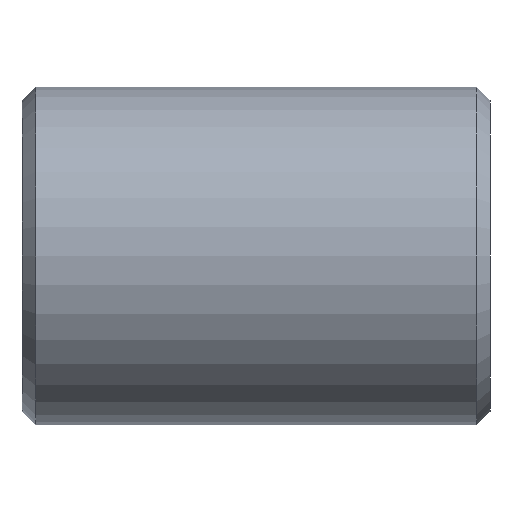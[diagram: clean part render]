
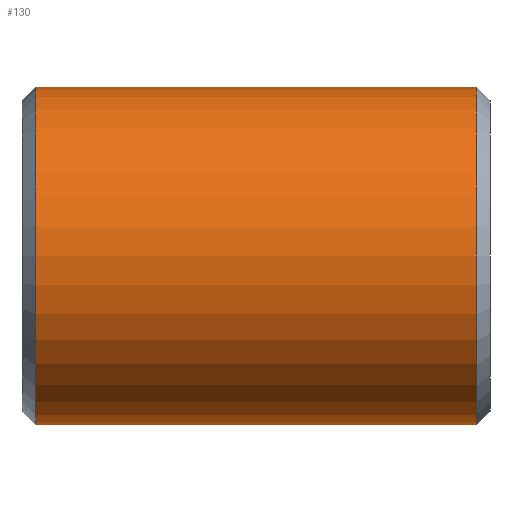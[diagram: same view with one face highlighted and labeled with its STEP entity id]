
A CAD part, front view. The second image highlights one B-rep face of the part: STEP entity #130.
In plain terms, the highlighted cylindrical face has radius 37.5 mm (diameter 75 mm), a partial arc.
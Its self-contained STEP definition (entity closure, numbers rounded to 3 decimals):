
#13 = CARTESIAN_POINT ( 'NONE',  ( 3., 0., -37.5 ) ) ;
#32 = VERTEX_POINT ( 'NONE', #177 ) ;
#33 = VERTEX_POINT ( 'NONE', #422 ) ;
#36 = EDGE_CURVE ( 'NONE', #33, #205, #251, .T. ) ;
#39 = ORIENTED_EDGE ( 'NONE', *, *, #36, .T. ) ;
#75 = DIRECTION ( 'NONE',  ( 1., 0., 0. ) ) ;
#90 = EDGE_CURVE ( 'NONE', #33, #277, #316, .T. ) ;
#92 = CYLINDRICAL_SURFACE ( 'NONE', #343, 37.5 ) ;
#108 = EDGE_CURVE ( 'NONE', #32, #277, #398, .T. ) ;
#113 = CARTESIAN_POINT ( 'NONE',  ( 101., 0., 37.5 ) ) ;
#115 = CARTESIAN_POINT ( 'NONE',  ( 0., 0., 37.5 ) ) ;
#118 = CARTESIAN_POINT ( 'NONE',  ( 3., 0., 0. ) ) ;
#119 = DIRECTION ( 'NONE',  ( -1., 0., 0. ) ) ;
#130 = ADVANCED_FACE ( 'NONE', ( #215 ), #92, .T. ) ;
#150 = DIRECTION ( 'NONE',  ( -1., 0., 0. ) ) ;
#157 = AXIS2_PLACEMENT_3D ( 'NONE', #218, #425, #315 ) ;
#160 = LINE ( 'NONE', #115, #256 ) ;
#173 = ORIENTED_EDGE ( 'NONE', *, *, #90, .F. ) ;
#177 = CARTESIAN_POINT ( 'NONE',  ( 3., 0., 37.5 ) ) ;
#180 = DIRECTION ( 'NONE',  ( 0., 0., 1. ) ) ;
#196 = EDGE_CURVE ( 'NONE', #205, #32, #160, .T. ) ;
#200 = ORIENTED_EDGE ( 'NONE', *, *, #108, .T. ) ;
#205 = VERTEX_POINT ( 'NONE', #113 ) ;
#215 = FACE_OUTER_BOUND ( 'NONE', #310, .T. ) ;
#218 = CARTESIAN_POINT ( 'NONE',  ( 101., 0., 0. ) ) ;
#226 = ORIENTED_EDGE ( 'NONE', *, *, #196, .T. ) ;
#251 = CIRCLE ( 'NONE', #157, 37.5 ) ;
#256 = VECTOR ( 'NONE', #412, 1000. ) ;
#261 = CARTESIAN_POINT ( 'NONE',  ( 0., 0., -37.5 ) ) ;
#270 = AXIS2_PLACEMENT_3D ( 'NONE', #118, #75, #283 ) ;
#277 = VERTEX_POINT ( 'NONE', #13 ) ;
#283 = DIRECTION ( 'NONE',  ( 0., 0., -1. ) ) ;
#310 = EDGE_LOOP ( 'NONE', ( #173, #39, #226, #200 ) ) ;
#315 = DIRECTION ( 'NONE',  ( 0., 0., 1. ) ) ;
#316 = LINE ( 'NONE', #261, #416 ) ;
#343 = AXIS2_PLACEMENT_3D ( 'NONE', #387, #150, #180 ) ;
#387 = CARTESIAN_POINT ( 'NONE',  ( 0., 0., 0. ) ) ;
#398 = CIRCLE ( 'NONE', #270, 37.5 ) ;
#412 = DIRECTION ( 'NONE',  ( -1., 0., 0. ) ) ;
#416 = VECTOR ( 'NONE', #119, 1000. ) ;
#422 = CARTESIAN_POINT ( 'NONE',  ( 101., 0., -37.5 ) ) ;
#425 = DIRECTION ( 'NONE',  ( -1., 0., 0. ) ) ;
